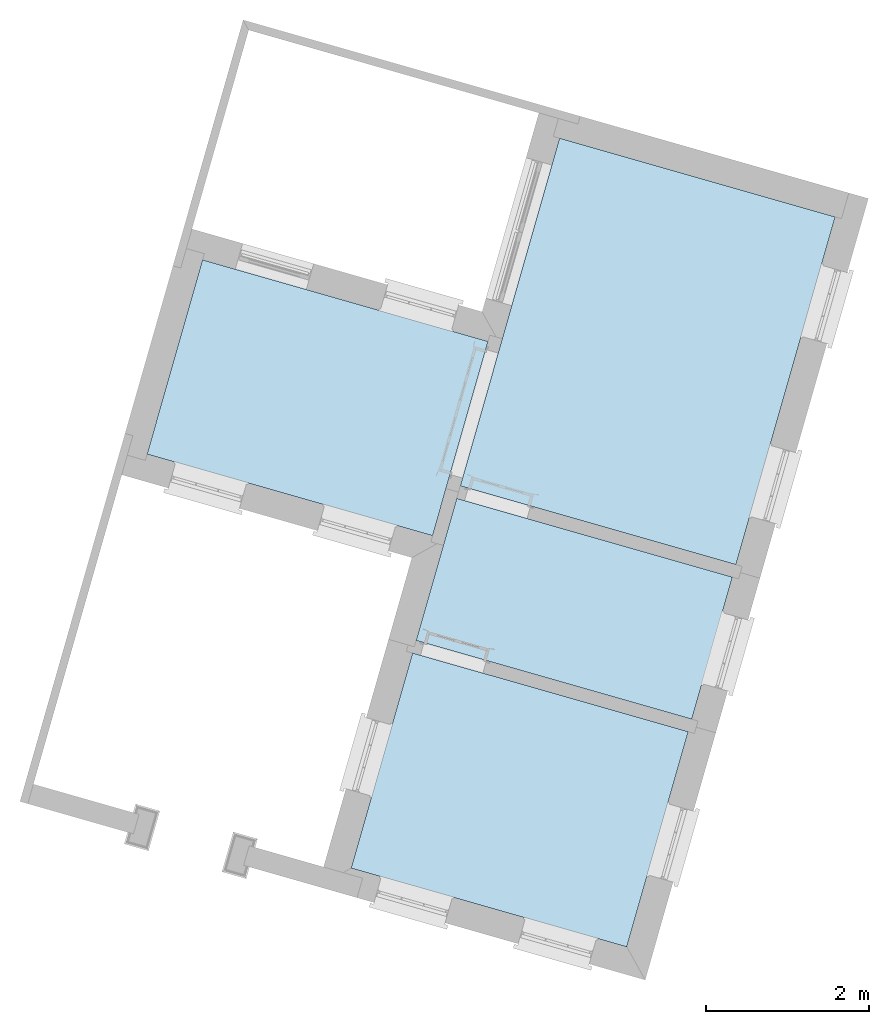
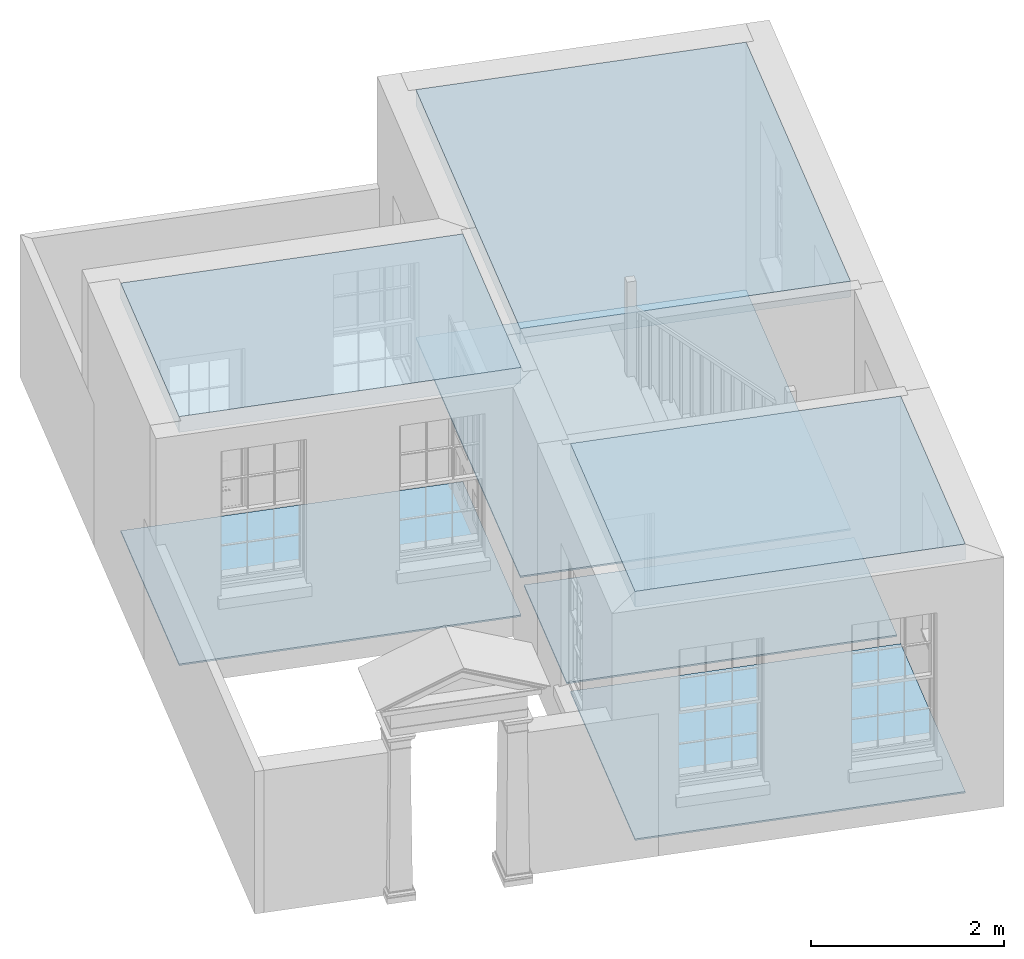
# One storey, part 1 of 7: 7 slabs.
"""IFC4 building model written with IfcOpenShell, lengths in metres."""

from ifc_helpers import new_model, si_unit, frame, origin_with_axes, place, context, subcontext, project, spatial, polyline, outline, extrude, element, save


model = new_model("IFC4")

# Units and contexts
model_context = context("Model", 3, world=origin_with_axes())
body_context = subcontext(model_context, "Body", "Model", "MODEL_VIEW")
ifc_project = project(units=[si_unit("PLANEANGLEUNIT", "RADIAN"), si_unit("MASSUNIT", "GRAM", prefix="KILO"), si_unit("FORCEUNIT", "NEWTON", prefix="KILO"), si_unit("LENGTHUNIT", "METRE"), si_unit("AREAUNIT", "SQUARE_METRE"), si_unit("VOLUMEUNIT", "CUBIC_METRE")], contexts=[model_context, model_context])

# Sites, building, storey
site_1_placement = place(None, origin_with_axes())
site_1 = spatial("IfcSite", under=ifc_project, at=site_1_placement, Name="Tamar")
site_2_placement = place(site_1_placement, origin_with_axes())
site_2 = spatial("IfcSite", under=site_1, at=site_2_placement, Name="Site plot-20", CompositionType="ELEMENT")
building_placement = place(None, origin_with_axes())
building = spatial("IfcBuilding", under=site_2, at=building_placement, Name="Building plot-20", CompositionType="ELEMENT")
storey_placement = place(None, frame((0.0, 0.0, 26.0), z_axis=(0.0, 0.0, 1.0), x_axis=(1.0, 0.0, 0.0)))
storey = spatial("IfcBuildingStorey", under=building, at=storey_placement, Name="plot-20 0", CompositionType="ELEMENT", Elevation=26.0)

# Slabs
slab_1_placement = place(storey_placement, frame((277.345053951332, 288.895800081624, 2.95)))
element("IfcSlab", 1, at=slab_1_placement, inside=storey, Name="My Slab", ObjectType="Slab", PredefinedType="FLOOR", context=body_context, shape_type="SweptSolid", body=[
    extrude(outline(polyline([(0.0, 0.0), (0.682405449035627, 2.38985874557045), (-2.83042353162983, 3.392919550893), (-3.51282898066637, 1.00306080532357), (0.0, 0.0)])), origin_with_axes(), (0.0, 0.0, 1.0), 0.2),
])
slab_2_placement = place(storey_placement, frame((277.345053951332, 288.895800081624, 0.0)))
element("IfcSlab", 2, at=slab_2_placement, inside=storey, Name="My Slab", ObjectType="Slab", PredefinedType="FLOOR", context=body_context, shape_type="SweptSolid", body=[
    extrude(outline(polyline([(0.0, 0.0), (0.682405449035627, 2.38985874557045), (-2.83042353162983, 3.392919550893), (-3.51282898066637, 1.00306080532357), (0.0, 0.0)])), origin_with_axes(), (0.0, 0.0, 1.0), 0.02),
])
slab_3_placement = place(storey_placement, frame((277.642229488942, 289.353808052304, 0.0)))
element("IfcSlab", 3, at=slab_3_placement, inside=storey, Name="My Slab", ObjectType="Slab", PredefinedType="FLOOR", context=body_context, shape_type="SweptSolid", body=[
    extrude(outline(polyline([(0.0, 0.0), (-0.499214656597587, -1.74830449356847), (2.89201211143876, -2.71664273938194), (3.39122676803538, -0.968338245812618), (0.0, 0.0)])), origin_with_axes(), (0.0, 0.0, 1.0), 0.02),
])
slab_4_placement = place(storey_placement, frame((282.298873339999, 292.817099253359, 2.95)))
element("IfcSlab", 4, at=slab_4_placement, inside=storey, Name="My Slab", ObjectType="Slab", PredefinedType="FLOOR", context=body_context, shape_type="SweptSolid", body=[
    extrude(outline(polyline([(0.0, 0.0), (-3.39122676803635, 0.968338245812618), (-4.61271295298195, -3.30944037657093), (-1.22148618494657, -4.27777862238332), (0.0, 0.0)])), origin_with_axes(), (0.0, 0.0, 1.0), 0.2),
])
slab_5_placement = place(storey_placement, frame((282.298873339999, 292.817099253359, 0.0)))
element("IfcSlab", 5, at=slab_5_placement, inside=storey, Name="My Slab", ObjectType="Slab", PredefinedType="FLOOR", context=body_context, shape_type="SweptSolid", body=[
    extrude(outline(polyline([(0.0, 0.0), (-3.39122676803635, 0.968338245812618), (-4.61271295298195, -3.30944037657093), (-1.22148618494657, -4.27777862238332), (0.0, 0.0)])), origin_with_axes(), (0.0, 0.0, 1.0), 0.02),
])
slab_6_placement = place(storey_placement, frame((277.099083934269, 287.451652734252, 2.95)))
element("IfcSlab", 6, at=slab_6_placement, inside=storey, Name="My Slab", ObjectType="Slab", PredefinedType="FLOOR", context=body_context, shape_type="SweptSolid", body=[
    extrude(outline(polyline([(0.0, 0.0), (-0.755903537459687, -2.64725711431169), (2.63532323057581, -3.61559536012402), (3.39122676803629, -0.968338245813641), (0.0, 0.0)])), origin_with_axes(), (0.0, 0.0, 1.0), 0.2),
])
slab_7_placement = place(storey_placement, frame((277.099083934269, 287.451652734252, 0.0)))
element("IfcSlab", 7, at=slab_7_placement, inside=storey, Name="My Slab", ObjectType="Slab", PredefinedType="FLOOR", context=body_context, shape_type="SweptSolid", body=[
    extrude(outline(polyline([(0.0, 0.0), (-0.755903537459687, -2.64725711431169), (2.63532323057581, -3.61559536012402), (3.39122676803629, -0.968338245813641), (0.0, 0.0)])), origin_with_axes(), (0.0, 0.0, 1.0), 0.02),
])

save(model, "model.ifc")
